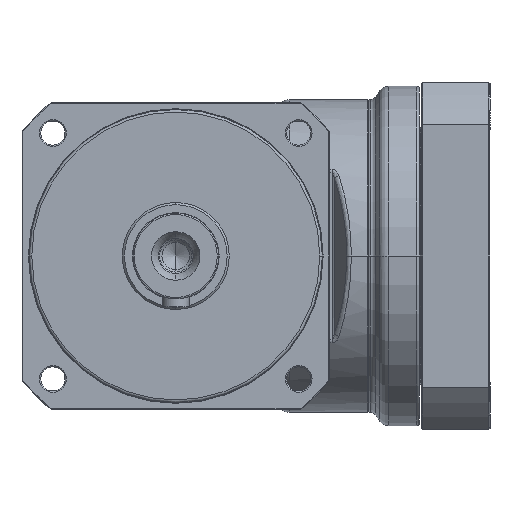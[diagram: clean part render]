
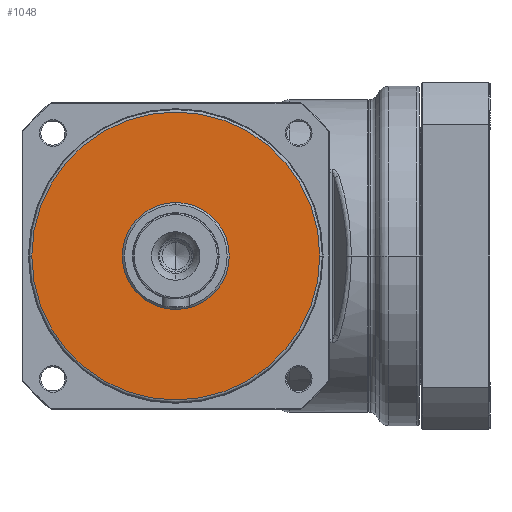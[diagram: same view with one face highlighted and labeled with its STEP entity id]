
A CAD part, left-side view. The second image highlights one B-rep face of the part: STEP entity #1048.
In plain terms, the highlighted planar face has unit normal (-1, 0, 0).
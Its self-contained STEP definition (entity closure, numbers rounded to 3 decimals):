
#1=CARTESIAN_POINT('',(0.,0.,0.));
#2=DIRECTION('',(-1.,0.,0.));
#3=DIRECTION('',(0.,1.,0.));
#4=AXIS2_PLACEMENT_3D('',#1,#2,#3);
#6=CARTESIAN_POINT('',(0.,0.,0.));
#7=DIRECTION('',(-1.,0.,0.));
#8=DIRECTION('',(0.,-1.,0.));
#9=AXIS2_PLACEMENT_3D('',#6,#7,#8);
#997=CARTESIAN_POINT('',(0.,53.842,0.));
#998=CARTESIAN_POINT('',(0.,-53.842,0.));
#999=VERTEX_POINT('',#997);
#1000=VERTEX_POINT('',#998);
#1037=CARTESIAN_POINT('',(0.,0.,0.));
#1038=DIRECTION('',(1.,0.,0.));
#1039=DIRECTION('',(0.,-1.,0.));
#1040=AXIS2_PLACEMENT_3D('',#1037,#1038,#1039);
#1041=PLANE('',#1040);
#1043=ORIENTED_EDGE('',*,*,#1042,.F.);
#1045=ORIENTED_EDGE('',*,*,#1044,.F.);
#1046=EDGE_LOOP('',(#1043,#1045));
#1047=FACE_OUTER_BOUND('',#1046,.F.);
#1048=ADVANCED_FACE('',(#1047),#1041,.F.);
#5=CIRCLE('',#4,53.842);
#10=CIRCLE('',#9,53.842);
#1042=EDGE_CURVE('',#999,#1000,#5,.T.);
#1044=EDGE_CURVE('',#1000,#999,#10,.T.);
